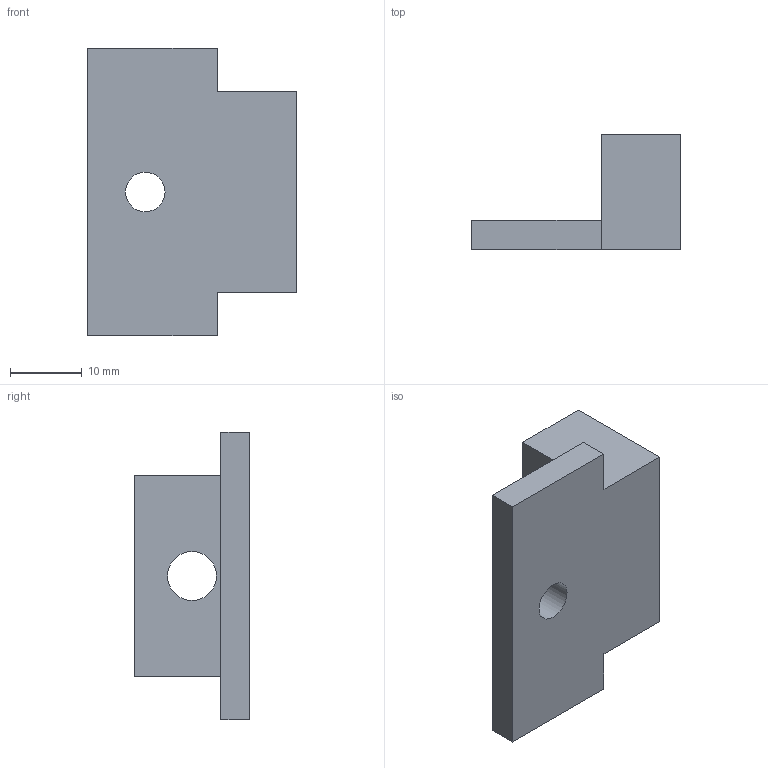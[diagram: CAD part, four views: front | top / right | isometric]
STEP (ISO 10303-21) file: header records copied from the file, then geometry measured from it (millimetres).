
FILE_DESCRIPTION(('Open CASCADE Model'),'2;1');
FILE_NAME('Open CASCADE Shape Model','2026-10-06T19:56:10',('Author'),( 'Open CASCADE'),'Open CASCADE STEP processor 7.9','Open CASCADE 7.9' ,'Unknown');
FILE_SCHEMA(('AUTOMOTIVE_DESIGN { 1 0 10303 214 1 1 1 1 }'));
Length unit declared in the file: millimetre
Products named in the file (1): Open CASCADE STEP translator 7.9 38
Bounding box: 29 x 16 x 40 mm (x, y, z)
Volume: 7313.5 mm3; surface area: 3728 mm2
Topology: 1 solids, 1 shells, 14 faces, 34 edges, 22 vertices
Faces by surface type: plane 12, cylinder 2
Full cylindrical faces by diameter (mm): 5.5 x1, 6.8 x1
Entity records: 872 total; most frequent: CARTESIAN_POINT 151, DIRECTION 134, LINE 94, VECTOR 94, ORIENTED_EDGE 68, PCURVE 68, DEFINITIONAL_REPRESENTATION 68, EDGE_CURVE 34
